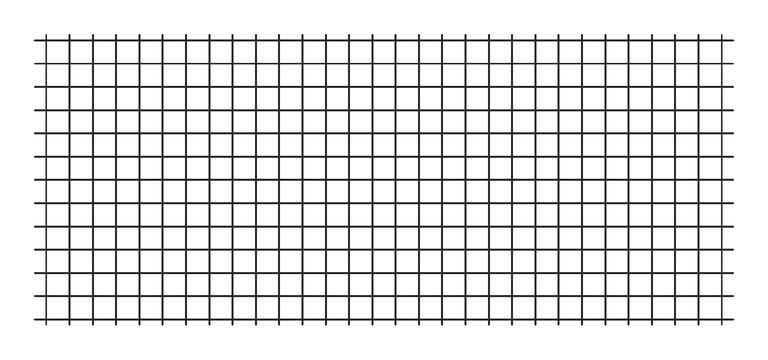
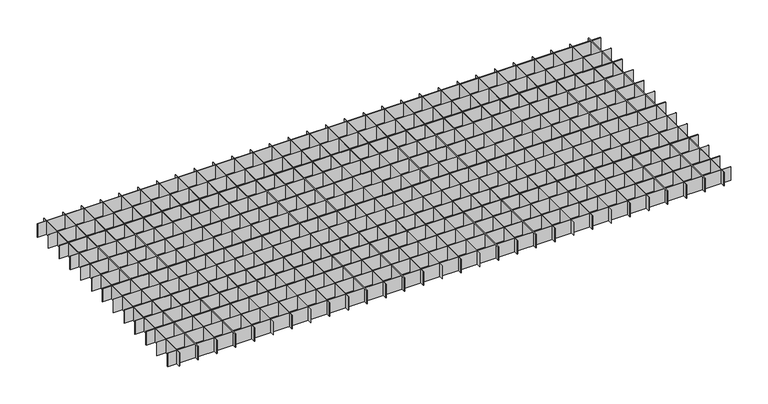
"""IFC4 building model written with IfcOpenShell, lengths in millimetres: proxy geometry, durlum_QUADRA_panel : durlum_QUADRA_width_cut."""

import ifcopenshell
import ifcopenshell.guid

model = None  # the IFC model being written
_history = None  # IfcOwnerHistory: only IFC2X3 demands one
_inside = {}  # id of a spatial element -> (the spatial element, [elements in it])
_under = {}  # id of a project, library or spatial element -> (it, [spatial elements below it])
_declared = {}  # id of a project -> (the project, [libraries it declares])
_typed = {}  # id of a type object -> (the type object, [elements of that type])
_made_of = {}  # id of a material, layer set ... -> (it, [elements and type objects made of it])


def new_model(schema):
    """Start an empty IFC model of exactly this schema.

    Asked for "IFC4X3", IfcOpenShell would pick the latest addendum, in which some entities
    have other attributes; the version numbers below select the first issue.
    IFC2X3 requires an IfcOwnerHistory on every rooted entity: one is made here for all.
    """
    global model, _history
    if schema == "IFC4X3":
        model = ifcopenshell.file(schema_version=(4, 3, 0, 0))
    else:
        model = ifcopenshell.file(schema=schema)
    _inside.clear()
    _under.clear()
    _declared.clear()
    _typed.clear()
    _made_of.clear()
    _history = None
    if model.schema == "IFC2X3":
        org = make("IfcOrganization", Name="unknown")
        user = make(
            "IfcPersonAndOrganization",
            ThePerson=make("IfcPerson", FamilyName="unknown"),
            TheOrganization=org,
        )
        app = make(
            "IfcApplication",
            ApplicationDeveloper=org,
            Version="unknown",
            ApplicationFullName="unknown",
            ApplicationIdentifier="unknown",
        )
        _history = make(
            "IfcOwnerHistory",
            OwningUser=user,
            OwningApplication=app,
            ChangeAction="ADDED",
            CreationDate=0,
        )
    return model


def make(cls, **values):
    """One entity of the class cls with the attributes given. An attribute that is None is left unset."""
    return model.create_entity(
        cls, **{name: value for name, value in values.items() if value is not None}
    )


def rooted(cls, **values):
    """An entity with a GlobalId (a new one), such as an element, a storey or a relation."""
    return make(cls, GlobalId=ifcopenshell.guid.new(), OwnerHistory=_history, **values)


def si_unit(unit_type, name, prefix=None):
    """IfcSIUnit, for example si_unit("LENGTHUNIT", "METRE", prefix="MILLI")."""
    return make("IfcSIUnit", UnitType=unit_type, Prefix=prefix, Name=name)


def assignment(units):
    """IfcUnitAssignment: the units of a project."""
    return None if units is None else make("IfcUnitAssignment", Units=units)


def point(xyz):
    """IfcCartesianPoint."""
    return None if xyz is None else make("IfcCartesianPoint", Coordinates=xyz)


def direction(xyz):
    """IfcDirection."""
    return None if xyz is None else make("IfcDirection", DirectionRatios=xyz)


def frame(location, z_axis=None, x_axis=None):
    """IfcAxis2Placement3D, a coordinate frame: its origin and axes. An axis left out is left unset."""
    return make(
        "IfcAxis2Placement3D",
        Location=point(location),
        Axis=direction(z_axis),
        RefDirection=direction(x_axis),
    )


def origin():
    """The frame at (0, 0, 0) with its axes left unset."""
    return frame((0.0, 0.0, 0.0))


def origin_with_axes():
    """The frame at (0, 0, 0) with the z axis (0, 0, 1) and the x axis (1, 0, 0) written out."""
    return frame((0.0, 0.0, 0.0), z_axis=(0.0, 0.0, 1.0), x_axis=(1.0, 0.0, 0.0))


def place(relative_to, where):
    """IfcLocalPlacement: puts the frame where relative to a parent placement (None: the world)."""
    return make(
        "IfcLocalPlacement", PlacementRelTo=relative_to, RelativePlacement=where
    )


def context(
    kind, dimensions, precision=None, world=None, true_north=None, identifier=None
):
    """IfcGeometricRepresentationContext, for example the 3D "Model" context."""
    return make(
        "IfcGeometricRepresentationContext",
        ContextIdentifier=identifier,
        ContextType=kind,
        CoordinateSpaceDimension=dimensions,
        Precision=precision,
        WorldCoordinateSystem=world,
        TrueNorth=true_north,
    )


def project(units=None, contexts=None):
    """IfcProject with its units and contexts."""
    return rooted(
        "IfcProject",
        Name="project",
        RepresentationContexts=contexts,
        UnitsInContext=assignment(units),
    )


def spatial(cls, under=None, at=None, **own):
    """A site, building, storey or space (cls), placed at a placement, below another one or the project."""
    s = rooted(cls, ObjectPlacement=at, **own)
    if under is not None:
        _under.setdefault(under.id(), (under, []))[1].append(s)
    return s


def polyline(points):
    """IfcPolyline through the points."""
    return make("IfcPolyline", Points=[point(p) for p in points])


def outline(outer, holes=None, kind="AREA"):
    """IfcArbitraryClosedProfileDef: a profile drawn as a closed curve; with holes, ...WithVoids."""
    if holes is None:
        return make("IfcArbitraryClosedProfileDef", ProfileType=kind, OuterCurve=outer)
    return make(
        "IfcArbitraryProfileDefWithVoids",
        ProfileType=kind,
        OuterCurve=outer,
        InnerCurves=holes,
    )


def extrude(swept, where, along, depth):
    """IfcExtrudedAreaSolid: the profile swept, set in the frame where, extruded along a direction by depth."""
    return make(
        "IfcExtrudedAreaSolid",
        SweptArea=swept,
        Position=where,
        ExtrudedDirection=direction(along),
        Depth=depth,
    )


def shape(context_of_items, identifier, shape_type, items):
    """IfcShapeRepresentation: the items that make up one representation, for example the "Body"."""
    return make(
        "IfcShapeRepresentation",
        ContextOfItems=context_of_items,
        RepresentationIdentifier=identifier,
        RepresentationType=shape_type,
        Items=items,
    )


def source(mapping_origin, context_of_items, identifier, shape_type, items):
    """IfcRepresentationMap: a shape defined once, which mapped items show again and again."""
    return make(
        "IfcRepresentationMap",
        MappingOrigin=mapping_origin,
        MappedRepresentation=shape(context_of_items, identifier, shape_type, items),
    )


def transform(
    local_origin,
    x_axis=None,
    y_axis=None,
    z_axis=None,
    scale=None,
    scale2=None,
    scale3=None,
    uniform=True,
):
    """IfcCartesianTransformationOperator3D, or its non-uniform kind. x_axis, y_axis, z_axis: its Axis1, 2, 3."""
    if uniform:
        return make(
            "IfcCartesianTransformationOperator3D",
            Axis1=direction(x_axis),
            Axis2=direction(y_axis),
            LocalOrigin=point(local_origin),
            Scale=scale,
            Axis3=direction(z_axis),
        )
    return make(
        "IfcCartesianTransformationOperator3DnonUniform",
        Axis1=direction(x_axis),
        Axis2=direction(y_axis),
        LocalOrigin=point(local_origin),
        Scale=scale,
        Axis3=direction(z_axis),
        Scale2=scale2,
        Scale3=scale3,
    )


def mapped(mapping_source, mapping_target):
    """IfcMappedItem: shows the shape of a source again, moved by a transform."""
    return make(
        "IfcMappedItem", MappingSource=mapping_source, MappingTarget=mapping_target
    )


def made_of(thing, what):
    """Note that an element or type object is made of a material, layer set ...; save() writes the relation."""
    if what is not None:
        _made_of.setdefault(what.id(), (what, []))[1].append(thing)
    return thing


def element(
    cls,
    number,
    at=None,
    inside=None,
    cuts=None,
    type_object=None,
    material=None,
    context=None,
    identifier="Body",
    shape_type=None,
    held_by="IfcProductDefinitionShape",
    body=None,
    shapes=None,
    **own,
):
    """One element of the class cls, such as IfcWall. Its Tag is "e" and its number.

    at: its placement. inside: the storey or other place that contains it. cuts: it is an
    opening in that element (IfcRelVoidsElement). A single representation is given by context,
    identifier, shape_type and body (its items); several are given by shapes. held_by: the class
    of the entity that holds the representations. save() writes the other relations.
    """
    e = rooted(cls, Tag="e%d" % number, ObjectPlacement=at, **own)
    if body is not None:
        shapes = [shape(context, identifier, shape_type, body)]
    if shapes is not None:
        e.Representation = make(held_by, Representations=shapes)
    if inside is not None:
        _inside.setdefault(inside.id(), (inside, []))[1].append(e)
    if cuts is not None:
        rooted(
            "IfcRelVoidsElement", RelatingBuildingElement=cuts, RelatedOpeningElement=e
        )
    if type_object is not None:
        _typed.setdefault(type_object.id(), (type_object, []))[1].append(e)
    return made_of(e, material)


def aggregate(whole, parts):
    """IfcRelAggregates: a whole, such as a stair, and the parts it consists of."""
    return rooted("IfcRelAggregates", RelatingObject=whole, RelatedObjects=parts)


def save(model, path):
    """Write the relations noted so far, then the file.

    IfcRelAggregates (storeys below a building ...), IfcRelContainedInSpatialStructure (elements
    in a storey), IfcRelDefinesByType, IfcRelAssociatesMaterial and IfcRelDeclares: one each for
    every whole, place, type object, material and project.
    """
    for whole, parts in _under.values():
        aggregate(whole, parts)
    for where, things in _inside.values():
        rooted(
            "IfcRelContainedInSpatialStructure",
            RelatedElements=things,
            RelatingStructure=where,
        )
    for kind, things in _typed.values():
        rooted("IfcRelDefinesByType", RelatedObjects=things, RelatingType=kind)
    for what, things in _made_of.values():
        rooted("IfcRelAssociatesMaterial", RelatedObjects=things, RelatingMaterial=what)
    for by, libraries in _declared.values():
        rooted("IfcRelDeclares", RelatingContext=by, RelatedDefinitions=libraries)
    model.write(path)


def generic_models_ea39767a(model_context):
    return source(origin(), model_context, "Body", "SweptSolid", [
        extrude(outline(polyline([(539.6, 249.5), (540.4, 249.5), (540.4, -249.5), (539.6, -249.5), (539.6, 249.5)])), origin_with_axes(), (0.0, 0.0, 1.0), 30.0),
        extrude(outline(polyline([(499.6, 249.5), (500.4, 249.5), (500.4, -249.5), (499.6, -249.5), (499.6, 249.5)])), origin_with_axes(), (0.0, 0.0, 1.0), 30.0),
        extrude(outline(polyline([(459.6, 249.5), (460.4, 249.5), (460.4, -249.5), (459.6, -249.5), (459.6, 249.5)])), origin_with_axes(), (0.0, 0.0, 1.0), 30.0),
        extrude(outline(polyline([(419.6, 249.5), (420.4, 249.5), (420.4, -249.5), (419.6, -249.5), (419.6, 249.5)])), origin_with_axes(), (0.0, 0.0, 1.0), 30.0),
        extrude(outline(polyline([(379.6, 249.5), (380.4, 249.5), (380.4, -249.5), (379.6, -249.5), (379.6, 249.5)])), origin_with_axes(), (0.0, 0.0, 1.0), 30.0),
        extrude(outline(polyline([(339.6, 249.5), (340.4, 249.5), (340.4, -249.5), (339.6, -249.5), (339.6, 249.5)])), origin_with_axes(), (0.0, 0.0, 1.0), 30.0),
        extrude(outline(polyline([(299.6, 249.5), (300.4, 249.5), (300.4, -249.5), (299.6, -249.5), (299.6, 249.5)])), origin_with_axes(), (0.0, 0.0, 1.0), 30.0),
        extrude(outline(polyline([(259.6, 249.5), (260.4, 249.5), (260.4, -249.5), (259.6, -249.5), (259.6, 249.5)])), origin_with_axes(), (0.0, 0.0, 1.0), 30.0),
        extrude(outline(polyline([(219.6, 249.5), (220.4, 249.5), (220.4, -249.5), (219.6, -249.5), (219.6, 249.5)])), origin_with_axes(), (0.0, 0.0, 1.0), 30.0),
        extrude(outline(polyline([(179.6, 249.5), (180.4, 249.5), (180.4, -249.5), (179.6, -249.5), (179.6, 249.5)])), origin_with_axes(), (0.0, 0.0, 1.0), 30.0),
        extrude(outline(polyline([(139.6, 249.5), (140.4, 249.5), (140.4, -249.5), (139.6, -249.5), (139.6, 249.5)])), origin_with_axes(), (0.0, 0.0, 1.0), 30.0),
        extrude(outline(polyline([(99.6, 249.5), (100.4, 249.5), (100.4, -249.5), (99.6, -249.5), (99.6, 249.5)])), origin_with_axes(), (0.0, 0.0, 1.0), 30.0),
        extrude(outline(polyline([(59.6, 249.5), (60.4, 249.5), (60.4, -249.5), (59.6, -249.5), (59.6, 249.5)])), origin_with_axes(), (0.0, 0.0, 1.0), 30.0),
        extrude(outline(polyline([(19.6, 249.5), (20.4, 249.5), (20.4, -249.5), (19.6, -249.5), (19.6, 249.5)])), origin_with_axes(), (0.0, 0.0, 1.0), 30.0),
        extrude(outline(polyline([(-20.4, 249.5), (-19.6, 249.5), (-19.6, -249.5), (-20.4, -249.5), (-20.4, 249.5)])), origin_with_axes(), (0.0, 0.0, 1.0), 30.0),
        extrude(outline(polyline([(599.5, -199.6), (599.5, -200.4), (-599.5, -200.4), (-599.5, -199.6), (599.5, -199.6)])), origin_with_axes(), (0.0, 0.0, 1.0), 30.0),
        extrude(outline(polyline([(599.5, -159.6), (599.5, -160.4), (-599.5, -160.4), (-599.5, -159.6), (599.5, -159.6)])), origin_with_axes(), (0.0, 0.0, 1.0), 30.0),
        extrude(outline(polyline([(599.5, -119.6), (599.5, -120.4), (-599.5, -120.4), (-599.5, -119.6), (599.5, -119.6)])), origin_with_axes(), (0.0, 0.0, 1.0), 30.0),
        extrude(outline(polyline([(599.5, -79.6), (599.5, -80.4), (-599.5, -80.4), (-599.5, -79.6), (599.5, -79.6)])), origin_with_axes(), (0.0, 0.0, 1.0), 30.0),
        extrude(outline(polyline([(599.5, -39.6), (599.5, -40.4), (-599.5, -40.4), (-599.5, -39.6), (599.5, -39.6)])), origin_with_axes(), (0.0, 0.0, 1.0), 30.0),
        extrude(outline(polyline([(-60.4, 249.5), (-59.6, 249.5), (-59.6, -249.5), (-60.4, -249.5), (-60.4, 249.5)])), origin_with_axes(), (0.0, 0.0, 1.0), 30.0),
        extrude(outline(polyline([(-100.4, 249.5), (-99.6, 249.5), (-99.6, -249.5), (-100.4, -249.5), (-100.4, 249.5)])), origin_with_axes(), (0.0, 0.0, 1.0), 30.0),
        extrude(outline(polyline([(-140.4, 249.5), (-139.6, 249.5), (-139.6, -249.5), (-140.4, -249.5), (-140.4, 249.5)])), origin_with_axes(), (0.0, 0.0, 1.0), 30.0),
        extrude(outline(polyline([(-180.4, 249.5), (-179.6, 249.5), (-179.6, -249.5), (-180.4, -249.5), (-180.4, 249.5)])), origin_with_axes(), (0.0, 0.0, 1.0), 30.0),
        extrude(outline(polyline([(-220.4, 249.5), (-219.6, 249.5), (-219.6, -249.5), (-220.4, -249.5), (-220.4, 249.5)])), origin_with_axes(), (0.0, 0.0, 1.0), 30.0),
        extrude(outline(polyline([(-260.4, 249.5), (-259.6, 249.5), (-259.6, -249.5), (-260.4, -249.5), (-260.4, 249.5)])), origin_with_axes(), (0.0, 0.0, 1.0), 30.0),
        extrude(outline(polyline([(-300.4, 249.5), (-299.6, 249.5), (-299.6, -249.5), (-300.4, -249.5), (-300.4, 249.5)])), origin_with_axes(), (0.0, 0.0, 1.0), 30.0),
        extrude(outline(polyline([(-340.4, 249.5), (-339.6, 249.5), (-339.6, -249.5), (-340.4, -249.5), (-340.4, 249.5)])), origin_with_axes(), (0.0, 0.0, 1.0), 30.0),
        extrude(outline(polyline([(-380.4, 249.5), (-379.6, 249.5), (-379.6, -249.5), (-380.4, -249.5), (-380.4, 249.5)])), origin_with_axes(), (0.0, 0.0, 1.0), 30.0),
        extrude(outline(polyline([(-420.4, 249.5), (-419.6, 249.5), (-419.6, -249.5), (-420.4, -249.5), (-420.4, 249.5)])), origin_with_axes(), (0.0, 0.0, 1.0), 30.0),
        extrude(outline(polyline([(-460.4, 249.5), (-459.6, 249.5), (-459.6, -249.5), (-460.4, -249.5), (-460.4, 249.5)])), origin_with_axes(), (0.0, 0.0, 1.0), 30.0),
        extrude(outline(polyline([(-500.4, 249.5), (-499.6, 249.5), (-499.6, -249.5), (-500.4, -249.5), (-500.4, 249.5)])), origin_with_axes(), (0.0, 0.0, 1.0), 30.0),
        extrude(outline(polyline([(-540.4, 249.5), (-539.6, 249.5), (-539.6, -249.5), (-540.4, -249.5), (-540.4, 249.5)])), origin_with_axes(), (0.0, 0.0, 1.0), 30.0),
        extrude(outline(polyline([(599.5, 0.4), (599.5, -0.4), (-599.5, -0.4), (-599.5, 0.4), (599.5, 0.4)])), origin_with_axes(), (0.0, 0.0, 1.0), 30.0),
        extrude(outline(polyline([(599.5, 40.4), (599.5, 39.6), (-599.5, 39.6), (-599.5, 40.4), (599.5, 40.4)])), origin_with_axes(), (0.0, 0.0, 1.0), 30.0),
        extrude(outline(polyline([(599.5, 80.4), (599.5, 79.6), (-599.5, 79.6), (-599.5, 80.4), (599.5, 80.4)])), origin_with_axes(), (0.0, 0.0, 1.0), 30.0),
        extrude(outline(polyline([(599.5, 120.4), (599.5, 119.6), (-599.5, 119.6), (-599.5, 120.4), (599.5, 120.4)])), origin_with_axes(), (0.0, 0.0, 1.0), 30.0),
        extrude(outline(polyline([(599.5, 160.4), (599.5, 159.6), (-599.5, 159.6), (-599.5, 160.4), (599.5, 160.4)])), origin_with_axes(), (0.0, 0.0, 1.0), 30.0),
        extrude(outline(polyline([(599.5, 200.4), (599.5, 199.6), (-599.5, 199.6), (-599.5, 200.4), (599.5, 200.4)])), origin_with_axes(), (0.0, 0.0, 1.0), 30.0),
        extrude(outline(polyline([(579.6, 249.5), (580.4, 249.5), (580.4, -249.5), (579.6, -249.5), (579.6, 249.5)])), origin_with_axes(), (0.0, 0.0, 1.0), 30.0),
        extrude(outline(polyline([(-580.4, 249.5), (-579.6, 249.5), (-579.6, -249.5), (-580.4, -249.5), (-580.4, 249.5)])), origin_with_axes(), (0.0, 0.0, 1.0), 30.0),
        extrude(outline(polyline([(599.5, -239.6), (599.5, -240.4), (-599.5, -240.4), (-599.5, -239.6), (599.5, -239.6)])), origin_with_axes(), (0.0, 0.0, 1.0), 30.0),
        extrude(outline(polyline([(599.5, 240.4), (599.5, 239.6), (-599.5, 239.6), (-599.5, 240.4), (599.5, 240.4)])), origin_with_axes(), (0.0, 0.0, 1.0), 30.0),
    ])


if __name__ == "__main__":
    model = new_model("IFC4")
    model_context = context("Model", 3, world=origin())
    ifc_project = project(units=[si_unit("LENGTHUNIT", "METRE", prefix="MILLI")], contexts=[model_context])
    site = spatial("IfcSite", under=ifc_project)
    building = spatial("IfcBuilding", under=site)
    placement = place(None, origin())
    generic_models_shape = generic_models_ea39767a(model_context)
    element("IfcBuildingElementProxy", 1, Name="durlum_QUADRA_panel : durlum_QUADRA_width_cut", ObjectType="durlum_QUADRA_panel : durlum_QUADRA_width_cut", at=placement, inside=building, context=model_context, shape_type="MappedRepresentation", body=[
        mapped(generic_models_shape, transform((0.0, 0.0, 0.0), x_axis=(1.0, 0.0, 0.0), y_axis=(0.0, 1.0, 0.0), z_axis=(0.0, 0.0, 1.0))),
    ])
    save(model, "model.ifc")
